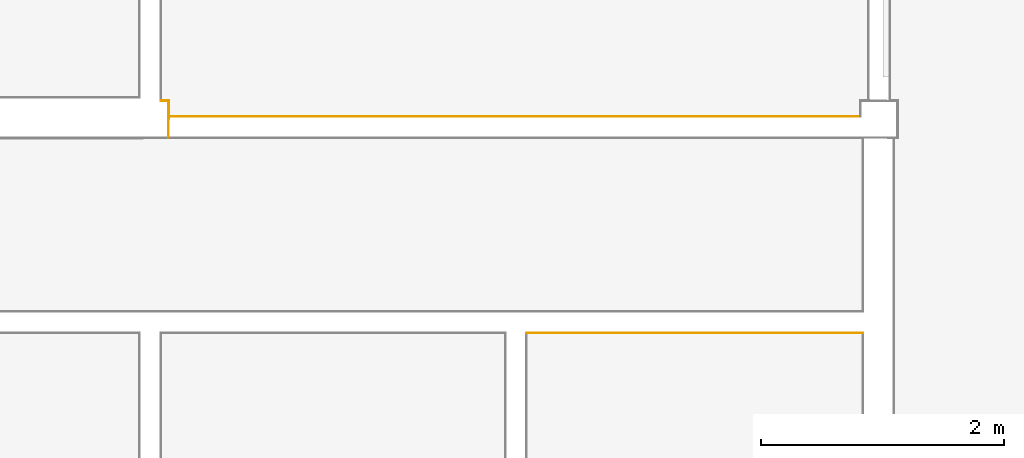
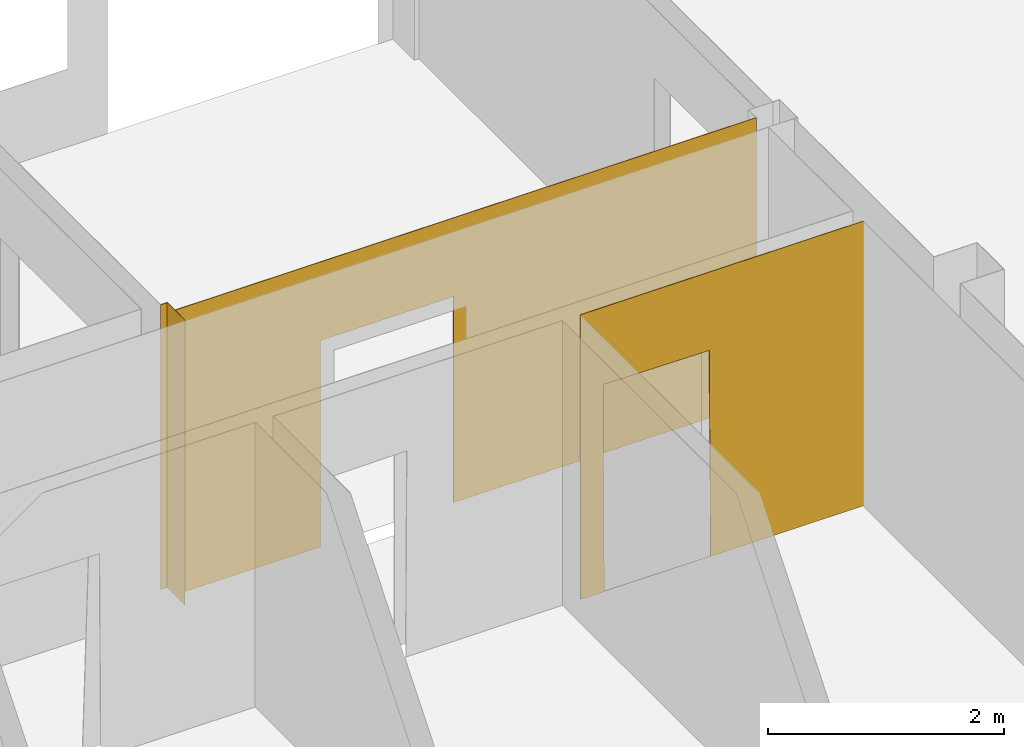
# One storey, part 20 of 33: 4 coverings, 2 openings.
"""IFC2X3 building model written with IfcOpenShell, lengths in millimetres."""

import ifcopenshell
import ifcopenshell.guid

model = None  # the IFC model being written
_history = None  # IfcOwnerHistory: only IFC2X3 demands one
_inside = {}  # id of a spatial element -> (the spatial element, [elements in it])
_under = {}  # id of a project, library or spatial element -> (it, [spatial elements below it])
_declared = {}  # id of a project -> (the project, [libraries it declares])
_typed = {}  # id of a type object -> (the type object, [elements of that type])
_made_of = {}  # id of a material, layer set ... -> (it, [elements and type objects made of it])


def new_model(schema):
    """Start an empty IFC model of exactly this schema.

    Asked for "IFC4X3", IfcOpenShell would pick the latest addendum, in which some entities
    have other attributes; the version numbers below select the first issue.
    IFC2X3 requires an IfcOwnerHistory on every rooted entity: one is made here for all.
    """
    global model, _history
    if schema == "IFC4X3":
        model = ifcopenshell.file(schema_version=(4, 3, 0, 0))
    else:
        model = ifcopenshell.file(schema=schema)
    _inside.clear()
    _under.clear()
    _declared.clear()
    _typed.clear()
    _made_of.clear()
    _history = None
    if model.schema == "IFC2X3":
        org = make("IfcOrganization", Name="unknown")
        user = make(
            "IfcPersonAndOrganization",
            ThePerson=make("IfcPerson", FamilyName="unknown"),
            TheOrganization=org,
        )
        app = make(
            "IfcApplication",
            ApplicationDeveloper=org,
            Version="unknown",
            ApplicationFullName="unknown",
            ApplicationIdentifier="unknown",
        )
        _history = make(
            "IfcOwnerHistory",
            OwningUser=user,
            OwningApplication=app,
            ChangeAction="ADDED",
            CreationDate=0,
        )
    return model


def make(cls, **values):
    """One entity of the class cls with the attributes given. An attribute that is None is left unset."""
    return model.create_entity(
        cls, **{name: value for name, value in values.items() if value is not None}
    )


def entity(cls, *values):
    """Any entity or typed value of the class cls, its attributes in the order of the schema. None: left unset."""
    e = model.create_entity(cls)
    for i, value in enumerate(values):
        if value is not None:
            e[i] = value
    return e


def rooted(cls, **values):
    """An entity with a GlobalId (a new one), such as an element, a storey or a relation."""
    return make(cls, GlobalId=ifcopenshell.guid.new(), OwnerHistory=_history, **values)


def si_unit(unit_type, name, prefix=None):
    """IfcSIUnit, for example si_unit("LENGTHUNIT", "METRE", prefix="MILLI")."""
    return make("IfcSIUnit", UnitType=unit_type, Prefix=prefix, Name=name)


def converted_unit(unit_type, name, factor, base, dimensions=None, offset=None):
    """IfcConversionBasedUnit, such as the inch: factor (a typed value) times the base unit."""
    return make(
        "IfcConversionBasedUnit"
        if offset is None
        else "IfcConversionBasedUnitWithOffset",
        ConversionOffset=offset,
        Dimensions=None
        if dimensions is None
        else entity("IfcDimensionalExponents", *dimensions),
        UnitType=unit_type,
        Name=name,
        ConversionFactor=make(
            "IfcMeasureWithUnit", ValueComponent=factor, UnitComponent=base
        ),
    )


def derived_unit(unit_type, elements):
    """IfcDerivedUnit: a product of units, each with its exponent."""
    return make(
        "IfcDerivedUnit",
        Elements=[
            make("IfcDerivedUnitElement", Unit=unit, Exponent=power)
            for unit, power in elements
        ],
        UnitType=unit_type,
    )


def money_unit(currency):
    """IfcMonetaryUnit."""
    return make("IfcMonetaryUnit", Currency=currency)


def assignment(units):
    """IfcUnitAssignment: the units of a project."""
    return None if units is None else make("IfcUnitAssignment", Units=units)


def point(xyz):
    """IfcCartesianPoint."""
    return None if xyz is None else make("IfcCartesianPoint", Coordinates=xyz)


def direction(xyz):
    """IfcDirection."""
    return None if xyz is None else make("IfcDirection", DirectionRatios=xyz)


def frame(location, z_axis=None, x_axis=None):
    """IfcAxis2Placement3D, a coordinate frame: its origin and axes. An axis left out is left unset."""
    return make(
        "IfcAxis2Placement3D",
        Location=point(location),
        Axis=direction(z_axis),
        RefDirection=direction(x_axis),
    )


def frame_2d(location, x_axis=None):
    """IfcAxis2Placement2D, a coordinate frame in the plane: its origin and x axis."""
    return make(
        "IfcAxis2Placement2D", Location=point(location), RefDirection=direction(x_axis)
    )


def origin_with_axes():
    """The frame at (0, 0, 0) with the z axis (0, 0, 1) and the x axis (1, 0, 0) written out."""
    return frame((0.0, 0.0, 0.0), z_axis=(0.0, 0.0, 1.0), x_axis=(1.0, 0.0, 0.0))


def origin_2d_with_axis():
    """The frame at (0, 0) in the plane with the x axis (1, 0) written out."""
    return frame_2d((0.0, 0.0), x_axis=(1.0, 0.0))


def place(relative_to, where):
    """IfcLocalPlacement: puts the frame where relative to a parent placement (None: the world)."""
    return make(
        "IfcLocalPlacement", PlacementRelTo=relative_to, RelativePlacement=where
    )


def context(
    kind, dimensions, precision=None, world=None, true_north=None, identifier=None
):
    """IfcGeometricRepresentationContext, for example the 3D "Model" context."""
    return make(
        "IfcGeometricRepresentationContext",
        ContextIdentifier=identifier,
        ContextType=kind,
        CoordinateSpaceDimension=dimensions,
        Precision=precision,
        WorldCoordinateSystem=world,
        TrueNorth=true_north,
    )


def subcontext(parent, identifier, kind, view, scale=None):
    """IfcGeometricRepresentationSubContext, for example "Body" below "Model"."""
    return make(
        "IfcGeometricRepresentationSubContext",
        ContextIdentifier=identifier,
        ContextType=kind,
        ParentContext=parent,
        TargetScale=scale,
        TargetView=view,
    )


def project(units=None, contexts=None):
    """IfcProject with its units and contexts."""
    return rooted(
        "IfcProject",
        Name="project",
        RepresentationContexts=contexts,
        UnitsInContext=assignment(units),
    )


def spatial(cls, under=None, at=None, **own):
    """A site, building, storey or space (cls), placed at a placement, below another one or the project."""
    s = rooted(cls, ObjectPlacement=at, **own)
    if under is not None:
        _under.setdefault(under.id(), (under, []))[1].append(s)
    return s


def polyline(points):
    """IfcPolyline through the points."""
    return make("IfcPolyline", Points=[point(p) for p in points])


def profile(cls, at=None, kind="AREA", **sizes):
    """A parametric profile (cls). Its sizes go by their IFC names, for example OverallWidth=200.0."""
    return make(cls, ProfileType=kind, Position=at, **sizes)


def rectangle(**sizes):
    """IfcRectangleProfileDef."""
    return profile("IfcRectangleProfileDef", **sizes)


def outline(outer, holes=None, kind="AREA"):
    """IfcArbitraryClosedProfileDef: a profile drawn as a closed curve; with holes, ...WithVoids."""
    if holes is None:
        return make("IfcArbitraryClosedProfileDef", ProfileType=kind, OuterCurve=outer)
    return make(
        "IfcArbitraryProfileDefWithVoids",
        ProfileType=kind,
        OuterCurve=outer,
        InnerCurves=holes,
    )


def extrude(swept, where, along, depth):
    """IfcExtrudedAreaSolid: the profile swept, set in the frame where, extruded along a direction by depth."""
    return make(
        "IfcExtrudedAreaSolid",
        SweptArea=swept,
        Position=where,
        ExtrudedDirection=direction(along),
        Depth=depth,
    )


def shape(context_of_items, identifier, shape_type, items):
    """IfcShapeRepresentation: the items that make up one representation, for example the "Body"."""
    return make(
        "IfcShapeRepresentation",
        ContextOfItems=context_of_items,
        RepresentationIdentifier=identifier,
        RepresentationType=shape_type,
        Items=items,
    )


def material(Name=None, Category=None):
    """IfcMaterial."""
    return make("IfcMaterial", Name=Name, Category=Category)


def made_of(thing, what):
    """Note that an element or type object is made of a material, layer set ...; save() writes the relation."""
    if what is not None:
        _made_of.setdefault(what.id(), (what, []))[1].append(thing)
    return thing


def type_object(cls, material=None, **own):
    """A type object (cls), such as IfcWallType, which elements share."""
    return made_of(rooted(cls, **own), material)


def element(
    cls,
    number,
    at=None,
    inside=None,
    cuts=None,
    type_object=None,
    material=None,
    context=None,
    identifier="Body",
    shape_type=None,
    held_by="IfcProductDefinitionShape",
    body=None,
    shapes=None,
    **own,
):
    """One element of the class cls, such as IfcWall. Its Tag is "e" and its number.

    at: its placement. inside: the storey or other place that contains it. cuts: it is an
    opening in that element (IfcRelVoidsElement). A single representation is given by context,
    identifier, shape_type and body (its items); several are given by shapes. held_by: the class
    of the entity that holds the representations. save() writes the other relations.
    """
    e = rooted(cls, Tag="e%d" % number, ObjectPlacement=at, **own)
    if body is not None:
        shapes = [shape(context, identifier, shape_type, body)]
    if shapes is not None:
        e.Representation = make(held_by, Representations=shapes)
    if inside is not None:
        _inside.setdefault(inside.id(), (inside, []))[1].append(e)
    if cuts is not None:
        rooted(
            "IfcRelVoidsElement", RelatingBuildingElement=cuts, RelatedOpeningElement=e
        )
    if type_object is not None:
        _typed.setdefault(type_object.id(), (type_object, []))[1].append(e)
    return made_of(e, material)


def aggregate(whole, parts):
    """IfcRelAggregates: a whole, such as a stair, and the parts it consists of."""
    return rooted("IfcRelAggregates", RelatingObject=whole, RelatedObjects=parts)


def save(model, path):
    """Write the relations noted so far, then the file.

    IfcRelAggregates (storeys below a building ...), IfcRelContainedInSpatialStructure (elements
    in a storey), IfcRelDefinesByType, IfcRelAssociatesMaterial and IfcRelDeclares: one each for
    every whole, place, type object, material and project.
    """
    for whole, parts in _under.values():
        aggregate(whole, parts)
    for where, things in _inside.values():
        rooted(
            "IfcRelContainedInSpatialStructure",
            RelatedElements=things,
            RelatingStructure=where,
        )
    for kind, things in _typed.values():
        rooted("IfcRelDefinesByType", RelatedObjects=things, RelatingType=kind)
    for what, things in _made_of.values():
        rooted("IfcRelAssociatesMaterial", RelatedObjects=things, RelatingMaterial=what)
    for by, libraries in _declared.values():
        rooted("IfcRelDeclares", RelatingContext=by, RelatedDefinitions=libraries)
    model.write(path)


model = new_model("IFC2X3")

# Units and contexts
model_context = context("Model", 3, precision=0.01, world=origin_with_axes(), true_north=direction((0.0, 1.0)))
body_context = subcontext(model_context, "Body", "Model", "MODEL_VIEW")
ifc_project = project(units=[si_unit("LENGTHUNIT", "METRE", prefix="MILLI"), si_unit("AREAUNIT", "SQUARE_METRE"), si_unit("VOLUMEUNIT", "CUBIC_METRE"), converted_unit("PLANEANGLEUNIT", "DEGREE", entity("IfcPlaneAngleMeasure", 0.0174532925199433), si_unit("PLANEANGLEUNIT", "RADIAN"), dimensions=[0, 0, 0, 0, 0, 0, 0]), money_unit("EUR"), converted_unit("TIMEUNIT", "Year", entity("IfcTimeMeasure", 31556926.0), si_unit("TIMEUNIT", "SECOND"), dimensions=[0, 0, 1, 0, 0, 0, 0]), si_unit("MASSUNIT", "GRAM", prefix="KILO"), si_unit("THERMODYNAMICTEMPERATUREUNIT", "DEGREE_CELSIUS"), si_unit("LUMINOUSINTENSITYUNIT", "LUMEN"), si_unit("ENERGYUNIT", "JOULE", prefix="MEGA"), derived_unit("THERMALCONDUCTANCEUNIT", [(si_unit("POWERUNIT", "WATT"), 1), (si_unit("LENGTHUNIT", "METRE"), -1), (si_unit("THERMODYNAMICTEMPERATUREUNIT", "KELVIN"), -1)]), derived_unit("SPECIFICHEATCAPACITYUNIT", [(si_unit("ENERGYUNIT", "JOULE"), 1), (si_unit("MASSUNIT", "GRAM", prefix="KILO"), -1), (si_unit("THERMODYNAMICTEMPERATUREUNIT", "KELVIN"), -1)]), derived_unit("MASSDENSITYUNIT", [(si_unit("MASSUNIT", "GRAM", prefix="KILO"), 1), (si_unit("VOLUMEUNIT", "CUBIC_METRE"), -1)])], contexts=[model_context])

# Site, building, storey
site_placement = place(None, origin_with_axes())
site = spatial("IfcSite", under=ifc_project, at=site_placement, Name="Paldiski mnt 245/1, Tallinn, Harjumaa", CompositionType="COMPLEX")
building_placement = place(site_placement, origin_with_axes())
building = spatial("IfcBuilding", under=site, at=building_placement, Name="RKAS Hoone üldnimetus (kasutust iseloomustav) -> IFC Project Manager -> SOLIBRI", CompositionType="ELEMENT")
storey_placement = place(building_placement, origin_with_axes())
storey = spatial("IfcBuildingStorey", under=building, at=storey_placement, Name="Esimene korrus", CompositionType="ELEMENT", Elevation=0.0)

# Covering
ifc_material_1 = material(Name="SA- Värv SM5(valge)")
covering_type_1 = type_object("IfcCoveringType", Name="SA- Värv SM5(valge) 5", PredefinedType="CLADDING")
covering_1_placement = place(storey_placement, frame((-29375.00000000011, -6180.000015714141, 0.0), z_axis=(0.0, 0.0, 1.0), x_axis=(0.9999999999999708, 2.417666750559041e-07, 0.0)))
element("IfcCovering", 1, at=covering_1_placement, inside=storey, type_object=covering_type_1, material=ifc_material_1, Name="SM5", PredefinedType="CLADDING", context=body_context, shape_type="SweptSolid", body=[
    extrude(outline(polyline([(0.0, 0.0), (64.99999999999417, 0.0), (70.00000120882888, 4.999999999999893), (5.000001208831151, 4.999999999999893), (0.0, 0.0)])), origin_with_axes(), (0.0, 0.0, 1.0), 2950.0),
])

# Covering, opening
covering_2_placement = place(storey_placement, frame((-29310.00000000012, -6309.999999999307, 0.0), z_axis=(0.0, 0.0, 1.0), x_axis=(1.0, 0.0, 0.0)))
covering_2 = element("IfcCovering", 2, at=covering_2_placement, inside=storey, type_object=covering_type_1, material=ifc_material_1, Name="SM5", PredefinedType="CLADDING", context=body_context, shape_type="SweptSolid", body=[
    extrude(outline(polyline([(4.999999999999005, 0.0), (5700.000000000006, 0.0), (5695.000000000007, 4.999999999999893), (4.999999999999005, 4.999999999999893), (4.999999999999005, 0.0)])), origin_with_axes(), (0.0, 0.0, 1.0), 2950.0),
])
opening_1_placement = place(covering_2_placement, frame((29310.00000000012, 6309.999999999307, 0.0), z_axis=(0.0, 0.0, 1.0), x_axis=(1.0, 0.0, 0.0)))
element("IfcOpeningElement", 3, at=opening_1_placement, cuts=covering_2, Name="AVA", ObjectType="OPENING", context=body_context, shape_type="SweptSolid", body=[
    extrude(rectangle(XDim=1303.940428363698, YDim=2153.602928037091, at=origin_2d_with_axis()), frame((-27231.28094802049, -6314.999999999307, 1058.541294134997), z_axis=(0.0, -1.0, 0.0), x_axis=(1.0, 0.0, 0.0)), (0.0, 0.0, -1.0), 15.00000000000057),
])

# Covering
covering_3_placement = place(storey_placement, frame((-29310.00000000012, -6179.999999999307, 0.0), z_axis=(0.0, 0.0, 1.0), x_axis=(0.0, -1.0, 0.0)))
element("IfcCovering", 4, at=covering_3_placement, inside=storey, type_object=covering_type_1, material=ifc_material_1, Name="SM5", PredefinedType="CLADDING", context=body_context, shape_type="SweptSolid", body=[
    extrude(outline(polyline([(0.0, 0.0), (299.9999999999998, 0.0), (129.9999999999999, 4.999999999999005), (-5.000001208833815, 4.999999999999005), (0.0, 0.0)])), origin_with_axes(), (0.0, 0.0, 1.0), 2950.0),
])

# Covering, opening
ifc_material_2 = material(Name="SA- Värv SM6(kollane)")
covering_type_2 = type_object("IfcCoveringType", Name="SA- Värv SM6(kollane) 5", PredefinedType="CLADDING")
covering_4_placement = place(storey_placement, frame((-23590.00006277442, -8084.999999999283, 0.0), z_axis=(0.0, 0.0, 1.0), x_axis=(-1.0, 0.0, 0.0)))
covering_4 = element("IfcCovering", 5, at=covering_4_placement, inside=storey, type_object=covering_type_2, material=ifc_material_2, Name="SM6", PredefinedType="CLADDING", context=body_context, shape_type="SweptSolid", body=[
    extrude(outline(polyline([(0.0, 0.0), (2774.999937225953, 0.0), (2774.999937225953, 5.000000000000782), (0.0, 5.000000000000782), (0.0, 0.0)])), origin_with_axes(), (0.0, 0.0, 1.0), 2950.0),
])
opening_2_placement = place(covering_4_placement, frame((-23590.00006277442, -8084.999999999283, 0.0), z_axis=(0.0, 0.0, 1.0), x_axis=(-1.0, 0.0, 0.0)))
element("IfcOpeningElement", 6, at=opening_2_placement, cuts=covering_4, Name="AVA", ObjectType="OPENING", context=body_context, shape_type="SweptSolid", body=[
    extrude(outline(polyline([(-525.2229754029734, -1072.848963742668), (514.5691012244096, -1069.96351702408), (525.2229754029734, 1072.848963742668), (-513.5282917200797, 1062.604084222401), (-525.2229754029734, -1072.848963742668)])), frame((-25613.97853438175, -8079.999999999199, 1076.579479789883), z_axis=(0.0, 1.0, 0.0), x_axis=(-1.0, 0.0, 0.0)), (0.0, 0.0, -1.0), 15.00000000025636),
])

save(model, "model.ifc")
